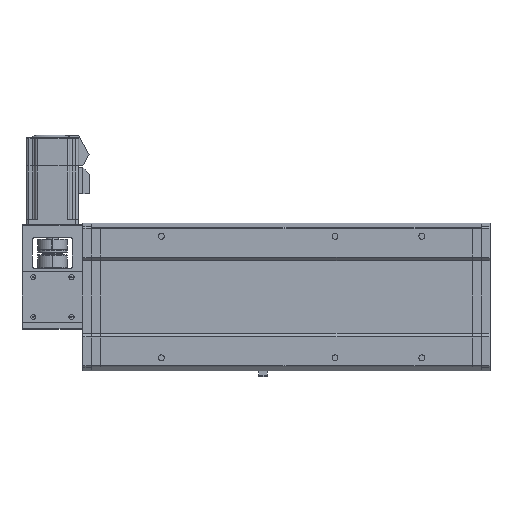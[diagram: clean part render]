
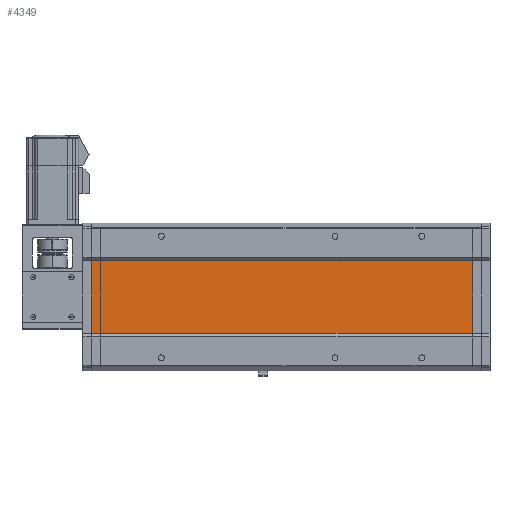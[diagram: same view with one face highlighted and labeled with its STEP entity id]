
A CAD part, front view. The second image highlights one B-rep face of the part: STEP entity #4349.
In plain terms, the highlighted planar face has unit normal (0, -1, 0).
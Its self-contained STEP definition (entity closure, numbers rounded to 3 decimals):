
#399=DIRECTION('',(0.,0.,-1.));
#400=VECTOR('',#399,84.);
#401=CARTESIAN_POINT('',(486.5,4.,42.));
#402=LINE('',#401,#400);
#1115=DIRECTION('',(1.,0.,0.));
#1116=VECTOR('',#1115,449.);
#1117=CARTESIAN_POINT('',(37.5,4.,-42.));
#1118=LINE('',#1117,#1116);
#1119=DIRECTION('',(1.,0.,0.));
#1120=VECTOR('',#1119,449.);
#1121=CARTESIAN_POINT('',(37.5,4.,42.));
#1122=LINE('',#1121,#1120);
#1607=DIRECTION('',(0.,0.,-1.));
#1608=VECTOR('',#1607,84.);
#1609=CARTESIAN_POINT('',(37.5,4.,42.));
#1610=LINE('',#1609,#1608);
#2181=CARTESIAN_POINT('',(37.5,4.,42.));
#2182=VERTEX_POINT('',#2181);
#2183=CARTESIAN_POINT('',(37.5,4.,-42.));
#2184=VERTEX_POINT('',#2183);
#2377=CARTESIAN_POINT('',(486.5,4.,42.));
#2378=VERTEX_POINT('',#2377);
#2379=CARTESIAN_POINT('',(486.5,4.,-42.));
#2380=VERTEX_POINT('',#2379);
#4336=CARTESIAN_POINT('',(260.,4.,0.));
#4337=DIRECTION('',(0.,1.,0.));
#4338=DIRECTION('',(0.,0.,1.));
#4339=AXIS2_PLACEMENT_3D('',#4336,#4337,#4338);
#4340=PLANE('',#4339);
#4342=ORIENTED_EDGE('',*,*,#4341,.T.);
#4343=ORIENTED_EDGE('',*,*,#3513,.T.);
#4344=ORIENTED_EDGE('',*,*,#4327,.F.);
#4346=ORIENTED_EDGE('',*,*,#4345,.F.);
#4347=EDGE_LOOP('',(#4342,#4343,#4344,#4346));
#4348=FACE_OUTER_BOUND('',#4347,.F.);
#3513=EDGE_CURVE('',#2378,#2380,#402,.T.);
#4327=EDGE_CURVE('',#2184,#2380,#1118,.T.);
#4341=EDGE_CURVE('',#2182,#2378,#1122,.T.);
#4345=EDGE_CURVE('',#2182,#2184,#1610,.T.);
#4349=ADVANCED_FACE('',(#4348),#4340,.F.);
